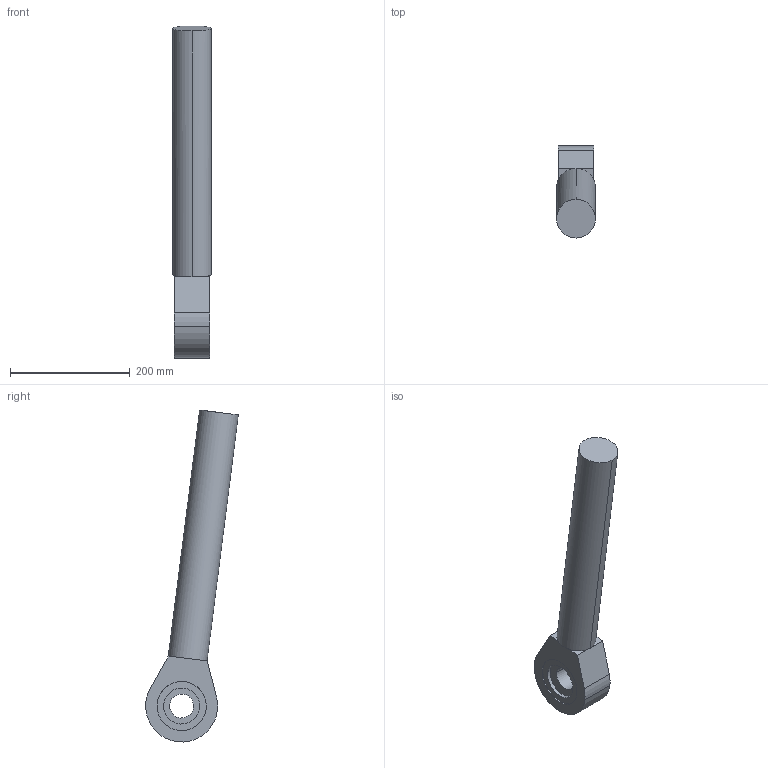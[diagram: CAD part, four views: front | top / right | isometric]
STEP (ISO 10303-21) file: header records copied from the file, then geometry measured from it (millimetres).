
FILE_DESCRIPTION(('CATIA V5 STEP Exchange'),'2;1');
FILE_NAME('Z:\ROBOT\CATIA06\products\SRA\SRA240L-01\Assy\FTP\catia\SRA240L-01_J1a.stp','2023-04-03T10:18:11+00:00',('none'),('none'),'CATIA Version 5-6 Release 2016 SP3','CATIA V5 STEP AP203','none');
FILE_SCHEMA(('CONFIG_CONTROL_DESIGN'));
Length unit declared in the file: millimetre
Products named in the file (1): SRA240L-01_J1a
Bounding box: 65 x 154.35 x 553.34 mm (x, y, z)
Volume: 1991309.3 mm3; surface area: 150886.3 mm2
Topology: 1 solids, 1 shells, 36 faces, 106 edges, 78 vertices
Faces by surface type: cylinder 19, plane 17
Entity records: 1346 total; most frequent: CARTESIAN_POINT 344, ORIENTED_EDGE 212, DIRECTION 164, EDGE_CURVE 106, AXIS2_PLACEMENT_3D 96, VERTEX_POINT 78, CIRCLE 60, EDGE_LOOP 44
